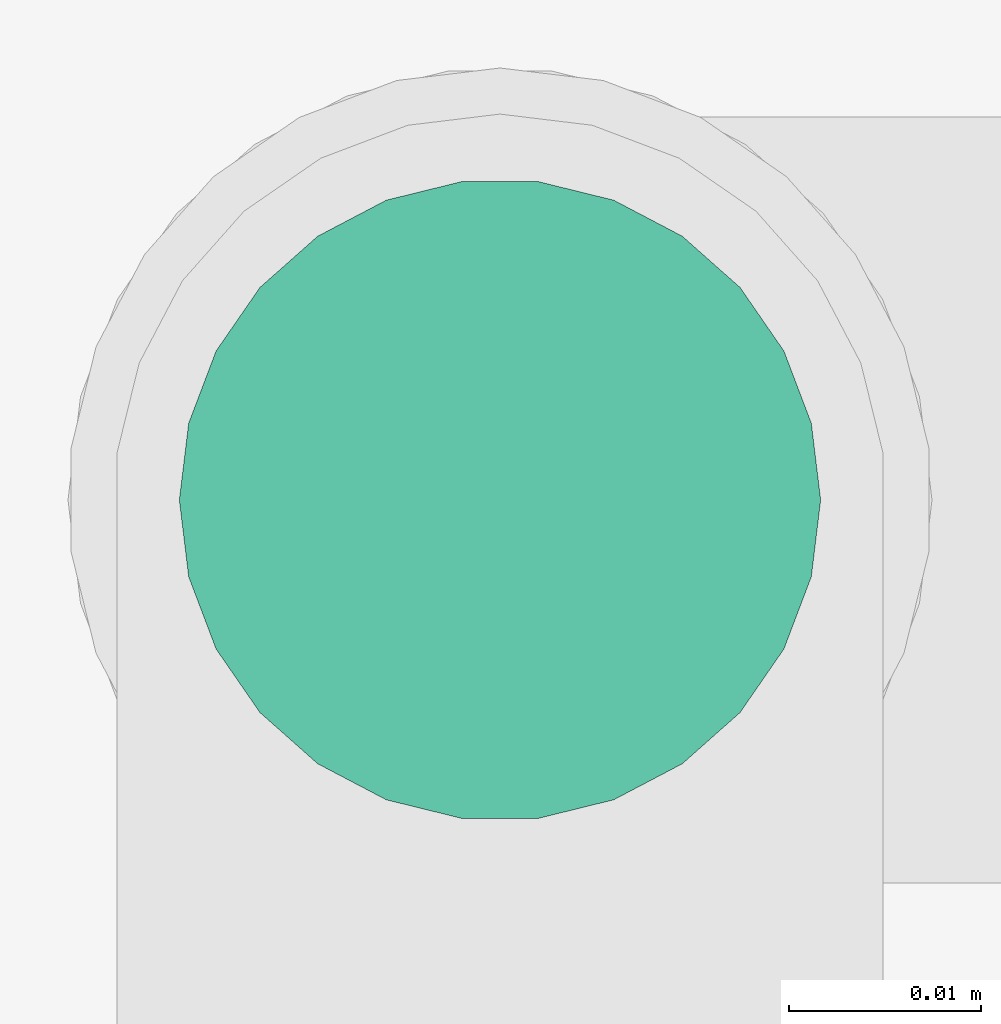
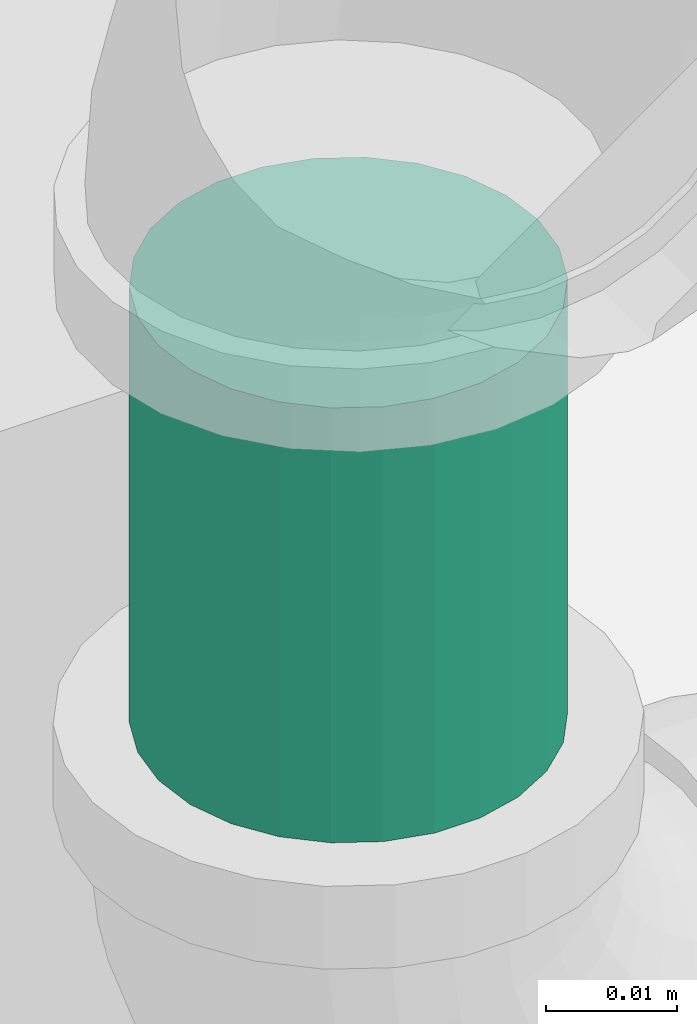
# One storey, part 89 of 108: 1 pipe segment.
"""IFC4 building model written with IfcOpenShell, lengths in feet."""

from ifc_helpers import new_model, entity, si_unit, converted_unit, derived_unit, direction, frame, origin, origin_2d_with_axis, place, context, subcontext, project, spatial, circle, extrude, type_object, element, save


model = new_model("IFC4")

# Units and contexts
model_context = context("Model", 3, precision=0.0001, world=origin(), true_north=direction((6.12303176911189e-17, 1.0)))
body_context = subcontext(model_context, "Body", "Model", "MODEL_VIEW")
ifc_project = project(units=[converted_unit("LENGTHUNIT", "FOOT", entity("IfcRatioMeasure", 0.3048), si_unit("LENGTHUNIT", "METRE"), dimensions=[1, 0, 0, 0, 0, 0, 0]), converted_unit("AREAUNIT", "SQUARE FOOT", entity("IfcRatioMeasure", 0.09290304), si_unit("AREAUNIT", "SQUARE_METRE"), dimensions=[2, 0, 0, 0, 0, 0, 0]), converted_unit("VOLUMEUNIT", "CUBIC FOOT", entity("IfcRatioMeasure", 0.028316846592), si_unit("VOLUMEUNIT", "CUBIC_METRE"), dimensions=[3, 0, 0, 0, 0, 0, 0]), converted_unit("PLANEANGLEUNIT", "DEGREE", entity("IfcRatioMeasure", 0.0174532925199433), si_unit("PLANEANGLEUNIT", "RADIAN"), dimensions=[0, 0, 0, 0, 0, 0, 0]), si_unit("MASSUNIT", "GRAM", prefix="KILO"), derived_unit("MASSDENSITYUNIT", [(si_unit("MASSUNIT", "GRAM", prefix="KILO"), 1), (si_unit("LENGTHUNIT", "METRE"), -3)]), si_unit("TIMEUNIT", "SECOND"), si_unit("FREQUENCYUNIT", "HERTZ"), si_unit("THERMODYNAMICTEMPERATUREUNIT", "DEGREE_CELSIUS"), derived_unit("THERMALTRANSMITTANCEUNIT", [(si_unit("MASSUNIT", "GRAM", prefix="KILO"), 1), (si_unit("THERMODYNAMICTEMPERATUREUNIT", "KELVIN"), -1), (si_unit("TIMEUNIT", "SECOND"), -3)]), derived_unit("VOLUMETRICFLOWRATEUNIT", [(si_unit("LENGTHUNIT", "METRE"), 3), (si_unit("TIMEUNIT", "SECOND"), -1)]), si_unit("ELECTRICCURRENTUNIT", "AMPERE"), si_unit("ELECTRICVOLTAGEUNIT", "VOLT"), si_unit("POWERUNIT", "WATT"), si_unit("FORCEUNIT", "NEWTON"), si_unit("ILLUMINANCEUNIT", "LUX"), si_unit("LUMINOUSFLUXUNIT", "LUMEN"), si_unit("LUMINOUSINTENSITYUNIT", "CANDELA"), derived_unit("USERDEFINED", [(si_unit("MASSUNIT", "GRAM", prefix="KILO"), -1), (si_unit("LENGTHUNIT", "METRE"), -2), (si_unit("TIMEUNIT", "SECOND"), 3), (si_unit("LUMINOUSFLUXUNIT", "LUMEN"), 1)]), derived_unit("LINEARVELOCITYUNIT", [(si_unit("LENGTHUNIT", "METRE"), 1), (si_unit("TIMEUNIT", "SECOND"), -1)]), si_unit("PRESSUREUNIT", "PASCAL"), derived_unit("USERDEFINED", [(si_unit("LENGTHUNIT", "METRE"), -2), (si_unit("MASSUNIT", "GRAM", prefix="KILO"), 1), (si_unit("TIMEUNIT", "SECOND"), -2)])], contexts=[model_context])

# Site, building, storey
site_placement = place(None, origin())
site = spatial("IfcSite", under=ifc_project, at=site_placement, Name="Default", CompositionType="ELEMENT")
building_placement = place(site_placement, origin())
building = spatial("IfcBuilding", under=site, at=building_placement, CompositionType="ELEMENT")
storey_placement = place(building_placement, frame((0.0, 0.0, 168.0)))
storey = spatial("IfcBuildingStorey", under=building, at=storey_placement, Name="Level 15", CompositionType="ELEMENT", Elevation=168.0)

# Pipe segment
pipe_segment_type = type_object("IfcPipeSegmentType", Name="Pipe Types:Fire Prot Sched 10 Main", PredefinedType="NOTDEFINED")
pipe_segment_placement = place(storey_placement, frame((-36.7949057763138, -2.26285329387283, 9.99621093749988)))
element("IfcPipeSegment", 1, at=pipe_segment_placement, inside=storey, type_object=pipe_segment_type, Name="Pipe Types:Fire Prot Sched 10 Main", ObjectType="Pipe Types:Fire Prot Sched 10 Main", PredefinedType="NOTDEFINED", context=body_context, shape_type="SweptSolid", body=[
    extrude(circle(Radius=0.0547916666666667, at=origin_2d_with_axis()), frame((0.0600254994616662, 0.0600254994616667, 0.0), z_axis=(0.0, 0.0, 1.0), x_axis=(-1.0, 0.0, 0.0)), (0.0, 0.0, 1.0), 0.13257812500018),
])

save(model, "model.ifc")
